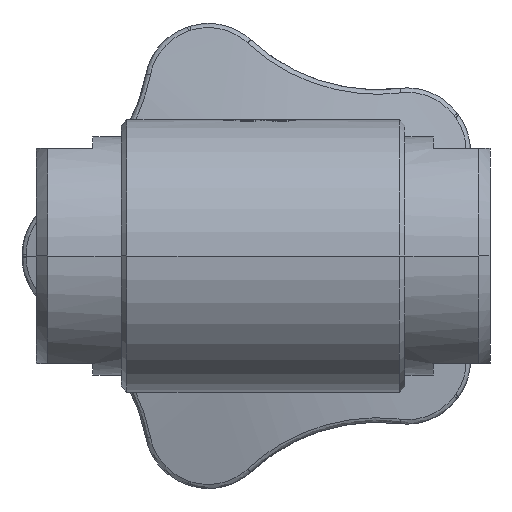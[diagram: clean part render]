
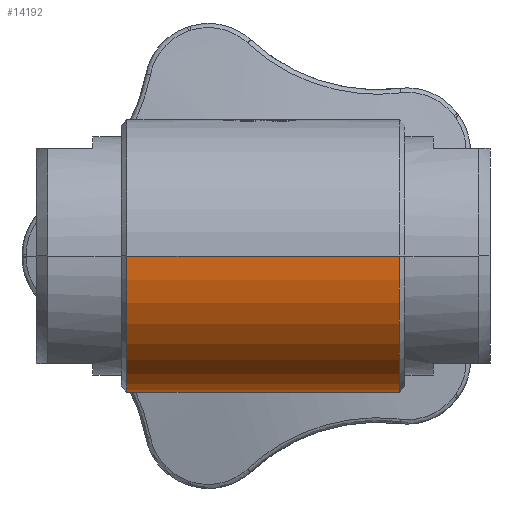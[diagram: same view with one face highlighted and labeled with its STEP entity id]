
A CAD part, front view. The second image highlights one B-rep face of the part: STEP entity #14192.
In plain terms, the highlighted cylindrical face has radius 24 mm (diameter 48 mm), a partial arc.
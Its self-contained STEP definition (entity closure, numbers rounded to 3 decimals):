
#273=CARTESIAN_POINT('',(-24.,0.,0.));
#274=DIRECTION('',(1.,0.,0.));
#275=DIRECTION('',(0.,-1.,0.));
#276=AXIS2_PLACEMENT_3D('',#273,#274,#275);
#304=DIRECTION('',(1.,0.,0.));
#305=VECTOR('',#304,3.);
#306=CARTESIAN_POINT('',(-24.,24.,0.));
#307=LINE('',#306,#305);
#324=CARTESIAN_POINT('',(21.,24.,0.));
#337=DIRECTION('',(1.,0.,0.));
#338=VECTOR('',#337,3.);
#339=CARTESIAN_POINT('',(21.,24.,0.));
#340=LINE('',#339,#338);
#1710=DIRECTION('',(1.,0.,0.));
#1711=VECTOR('',#1710,48.);
#1712=CARTESIAN_POINT('',(-24.,-24.,0.));
#1713=LINE('',#1712,#1711);
#1717=CARTESIAN_POINT('',(15.66,19.5,-13.991));
#1718=CARTESIAN_POINT('',(16.305,20.018,-13.269));
#1719=CARTESIAN_POINT('',(17.458,20.965,-11.779));
#1720=CARTESIAN_POINT('',(18.806,22.103,-9.465));
#1721=CARTESIAN_POINT('',(19.808,22.963,-7.121));
#1722=CARTESIAN_POINT('',(20.5,23.563,-4.767));
#1723=CARTESIAN_POINT('',(20.911,23.922,-2.377));
#1724=CARTESIAN_POINT('',(21.,24.,-0.789));
#1725=CARTESIAN_POINT('',(21.,24.,0.));
#1730=CARTESIAN_POINT('',(-21.,24.,0.));
#1731=CARTESIAN_POINT('',(-21.,24.,-0.789));
#1732=CARTESIAN_POINT('',(-20.911,23.922,
-2.377));
#1733=CARTESIAN_POINT('',(-20.5,23.563,
-4.767));
#1734=CARTESIAN_POINT('',(-19.808,22.963,
-7.121));
#1735=CARTESIAN_POINT('',(-18.806,22.103,
-9.465));
#1736=CARTESIAN_POINT('',(-17.458,20.965,
-11.779));
#1737=CARTESIAN_POINT('',(-16.305,20.018,
-13.269));
#1738=CARTESIAN_POINT('',(-15.66,19.5,-13.991));
#1751=CARTESIAN_POINT('',(24.,0.,0.));
#1752=DIRECTION('',(1.,0.,0.));
#1753=DIRECTION('',(0.,-1.,0.));
#1754=AXIS2_PLACEMENT_3D('',#1751,#1752,#1753);
#11806=DIRECTION('',(1.,0.,0.));
#11807=VECTOR('',#11806,31.321);
#11808=CARTESIAN_POINT('',(-15.66,19.5,-13.991));
#11809=LINE('',#11808,#11807);
#13144=VERTEX_POINT('',#1730);
#13145=VERTEX_POINT('',#1738);
#13146=VERTEX_POINT('',#324);
#13148=VERTEX_POINT('',#1717);
#13239=CARTESIAN_POINT('',(24.,-24.,0.));
#13240=CARTESIAN_POINT('',(24.,24.,0.));
#13241=VERTEX_POINT('',#13239);
#13242=VERTEX_POINT('',#13240);
#13247=CARTESIAN_POINT('',(-24.,24.,0.));
#13248=CARTESIAN_POINT('',(-24.,-24.,0.));
#13249=VERTEX_POINT('',#13247);
#13250=VERTEX_POINT('',#13248);
#14173=CARTESIAN_POINT('',(-40.,0.,0.));
#14174=DIRECTION('',(1.,0.,0.));
#14175=DIRECTION('',(0.,-1.,0.));
#14176=AXIS2_PLACEMENT_3D('',#14173,#14174,#14175);
#14177=CYLINDRICAL_SURFACE('',#14176,24.);
#14178=ORIENTED_EDGE('',*,*,#13864,.F.);
#14179=ORIENTED_EDGE('',*,*,#13902,.T.);
#14181=ORIENTED_EDGE('',*,*,#14180,.T.);
#14182=ORIENTED_EDGE('',*,*,#13898,.F.);
#14184=ORIENTED_EDGE('',*,*,#14183,.F.);
#14186=ORIENTED_EDGE('',*,*,#14185,.F.);
#14188=ORIENTED_EDGE('',*,*,#14187,.F.);
#14189=ORIENTED_EDGE('',*,*,#13890,.F.);
#14190=EDGE_LOOP('',(#14178,#14179,#14181,#14182,#14184,#14186,#14188,#14189));
#14191=FACE_OUTER_BOUND('',#14190,.F.);
#14192=ADVANCED_FACE('',(#14191),#14177,.T.);
#277=CIRCLE('',#276,24.);
#1726=B_SPLINE_CURVE_WITH_KNOTS('',3,(#1717,#1718,#1719,#1720,#1721,#1722,#1723,
#1724,#1725),.UNSPECIFIED.,.F.,.F.,(4,1,1,1,1,1,4),(0.,0.167,
0.333,0.5,0.667,0.833,1.),
.UNSPECIFIED.);
#1739=B_SPLINE_CURVE_WITH_KNOTS('',3,(#1730,#1731,#1732,#1733,#1734,#1735,#1736,
#1737,#1738),.UNSPECIFIED.,.F.,.F.,(4,1,1,1,1,1,4),(0.,0.167,
0.333,0.5,0.667,0.833,1.),
.UNSPECIFIED.);
#1755=CIRCLE('',#1754,24.);
#13864=EDGE_CURVE('',#13250,#13249,#277,.T.);
#13890=EDGE_CURVE('',#13249,#13144,#307,.T.);
#13898=EDGE_CURVE('',#13146,#13242,#340,.T.);
#13902=EDGE_CURVE('',#13250,#13241,#1713,.T.);
#14180=EDGE_CURVE('',#13241,#13242,#1755,.T.);
#14183=EDGE_CURVE('',#13148,#13146,#1726,.T.);
#14185=EDGE_CURVE('',#13145,#13148,#11809,.T.);
#14187=EDGE_CURVE('',#13144,#13145,#1739,.T.);
